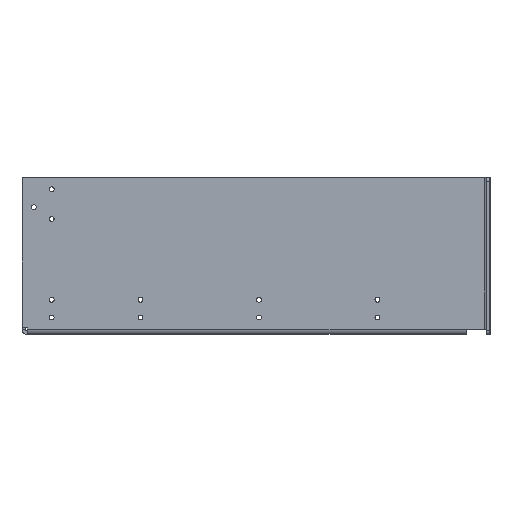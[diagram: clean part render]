
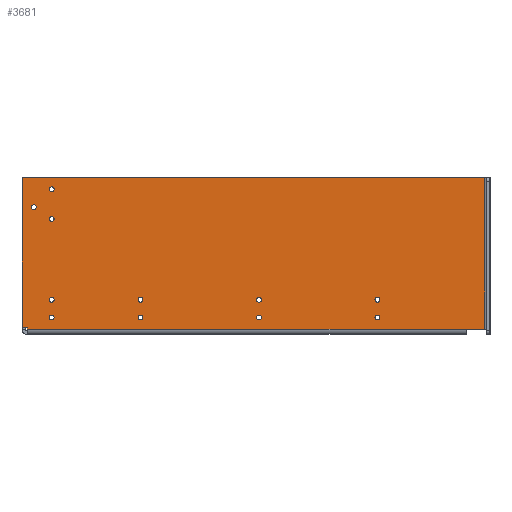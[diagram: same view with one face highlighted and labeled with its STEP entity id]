
A CAD part, left-side view. The second image highlights one B-rep face of the part: STEP entity #3681.
In plain terms, the highlighted planar face has unit normal (-1, 0, 0).
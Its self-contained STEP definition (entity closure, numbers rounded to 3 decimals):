
#186=FACE_BOUND('',#638,.T.);
#187=FACE_BOUND('',#639,.T.);
#188=FACE_BOUND('',#640,.T.);
#189=FACE_BOUND('',#641,.T.);
#190=FACE_BOUND('',#642,.T.);
#191=FACE_BOUND('',#643,.T.);
#192=FACE_BOUND('',#644,.T.);
#193=FACE_BOUND('',#645,.T.);
#194=FACE_BOUND('',#646,.T.);
#195=FACE_BOUND('',#647,.T.);
#196=FACE_BOUND('',#648,.T.);
#328=PLANE('',#3924);
#440=FACE_OUTER_BOUND('',#637,.T.);
#637=EDGE_LOOP('',(#2736,#2737,#2738,#2739,#2740,#2741,#2742));
#638=EDGE_LOOP('',(#2743));
#639=EDGE_LOOP('',(#2744));
#640=EDGE_LOOP('',(#2745));
#641=EDGE_LOOP('',(#2746));
#642=EDGE_LOOP('',(#2747));
#643=EDGE_LOOP('',(#2748));
#644=EDGE_LOOP('',(#2749));
#645=EDGE_LOOP('',(#2750));
#646=EDGE_LOOP('',(#2751));
#647=EDGE_LOOP('',(#2752));
#648=EDGE_LOOP('',(#2753));
#954=LINE('',#5441,#1273);
#956=LINE('',#5446,#1275);
#959=LINE('',#5453,#1278);
#962=LINE('',#5458,#1281);
#970=LINE('',#5478,#1289);
#971=LINE('',#5481,#1290);
#972=LINE('',#5482,#1291);
#1273=VECTOR('',#4400,10.);
#1275=VECTOR('',#4404,10.);
#1278=VECTOR('',#4409,10.);
#1281=VECTOR('',#4414,10.);
#1289=VECTOR('',#4434,10.);
#1290=VECTOR('',#4437,10.);
#1291=VECTOR('',#4438,10.);
#1546=CIRCLE('',#3848,2.067);
#1548=CIRCLE('',#3851,2.067);
#1550=CIRCLE('',#3854,2.067);
#1552=CIRCLE('',#3857,2.067);
#1554=CIRCLE('',#3860,2.067);
#1556=CIRCLE('',#3863,2.067);
#1558=CIRCLE('',#3866,2.067);
#1560=CIRCLE('',#3869,2.067);
#1562=CIRCLE('',#3872,2.067);
#1564=CIRCLE('',#3875,2.067);
#1566=CIRCLE('',#3878,2.067);
#1731=VERTEX_POINT('',#5272);
#1733=VERTEX_POINT('',#5278);
#1735=VERTEX_POINT('',#5284);
#1737=VERTEX_POINT('',#5290);
#1739=VERTEX_POINT('',#5296);
#1741=VERTEX_POINT('',#5302);
#1743=VERTEX_POINT('',#5308);
#1745=VERTEX_POINT('',#5314);
#1747=VERTEX_POINT('',#5320);
#1749=VERTEX_POINT('',#5326);
#1751=VERTEX_POINT('',#5332);
#1784=VERTEX_POINT('',#5430);
#1785=VERTEX_POINT('',#5434);
#1787=VERTEX_POINT('',#5445);
#1788=VERTEX_POINT('',#5449);
#1790=VERTEX_POINT('',#5452);
#1797=VERTEX_POINT('',#5476);
#1798=VERTEX_POINT('',#5480);
#2053=EDGE_CURVE('',#1731,#1731,#1546,.T.);
#2056=EDGE_CURVE('',#1733,#1733,#1548,.T.);
#2059=EDGE_CURVE('',#1735,#1735,#1550,.T.);
#2062=EDGE_CURVE('',#1737,#1737,#1552,.T.);
#2065=EDGE_CURVE('',#1739,#1739,#1554,.T.);
#2068=EDGE_CURVE('',#1741,#1741,#1556,.T.);
#2071=EDGE_CURVE('',#1743,#1743,#1558,.T.);
#2074=EDGE_CURVE('',#1745,#1745,#1560,.T.);
#2077=EDGE_CURVE('',#1747,#1747,#1562,.T.);
#2080=EDGE_CURVE('',#1749,#1749,#1564,.T.);
#2083=EDGE_CURVE('',#1751,#1751,#1566,.T.);
#2136=EDGE_CURVE('',#1784,#1785,#954,.T.);
#2138=EDGE_CURVE('',#1787,#1785,#956,.T.);
#2141=EDGE_CURVE('',#1790,#1788,#959,.T.);
#2144=EDGE_CURVE('',#1787,#1788,#962,.T.);
#2155=EDGE_CURVE('',#1790,#1797,#970,.T.);
#2156=EDGE_CURVE('',#1784,#1798,#971,.T.);
#2157=EDGE_CURVE('',#1798,#1797,#972,.T.);
#2736=ORIENTED_EDGE('',*,*,#2144,.F.);
#2737=ORIENTED_EDGE('',*,*,#2138,.T.);
#2738=ORIENTED_EDGE('',*,*,#2136,.F.);
#2739=ORIENTED_EDGE('',*,*,#2156,.T.);
#2740=ORIENTED_EDGE('',*,*,#2157,.T.);
#2741=ORIENTED_EDGE('',*,*,#2155,.F.);
#2742=ORIENTED_EDGE('',*,*,#2141,.T.);
#2743=ORIENTED_EDGE('',*,*,#2053,.T.);
#2744=ORIENTED_EDGE('',*,*,#2056,.T.);
#2745=ORIENTED_EDGE('',*,*,#2059,.T.);
#2746=ORIENTED_EDGE('',*,*,#2062,.T.);
#2747=ORIENTED_EDGE('',*,*,#2065,.T.);
#2748=ORIENTED_EDGE('',*,*,#2068,.T.);
#2749=ORIENTED_EDGE('',*,*,#2071,.T.);
#2750=ORIENTED_EDGE('',*,*,#2074,.T.);
#2751=ORIENTED_EDGE('',*,*,#2077,.T.);
#2752=ORIENTED_EDGE('',*,*,#2080,.T.);
#2753=ORIENTED_EDGE('',*,*,#2083,.T.);
#3681=ADVANCED_FACE('',(#440,#186,#187,#188,#189,#190,#191,#192,#193,#194,
#195,#196),#328,.T.);
#3848=AXIS2_PLACEMENT_3D('',#5274,#4220,#4221);
#3851=AXIS2_PLACEMENT_3D('',#5280,#4227,#4228);
#3854=AXIS2_PLACEMENT_3D('',#5286,#4234,#4235);
#3857=AXIS2_PLACEMENT_3D('',#5292,#4241,#4242);
#3860=AXIS2_PLACEMENT_3D('',#5298,#4248,#4249);
#3863=AXIS2_PLACEMENT_3D('',#5304,#4255,#4256);
#3866=AXIS2_PLACEMENT_3D('',#5310,#4262,#4263);
#3869=AXIS2_PLACEMENT_3D('',#5316,#4269,#4270);
#3872=AXIS2_PLACEMENT_3D('',#5322,#4276,#4277);
#3875=AXIS2_PLACEMENT_3D('',#5328,#4283,#4284);
#3878=AXIS2_PLACEMENT_3D('',#5334,#4290,#4291);
#3924=AXIS2_PLACEMENT_3D('',#5479,#4435,#4436);
#4220=DIRECTION('center_axis',(1.,0.,0.));
#4221=DIRECTION('ref_axis',(0.,0.,
1.));
#4227=DIRECTION('center_axis',(1.,0.,0.));
#4228=DIRECTION('ref_axis',(0.,0.,
1.));
#4234=DIRECTION('center_axis',(1.,0.,0.));
#4235=DIRECTION('ref_axis',(0.,0.,
1.));
#4241=DIRECTION('center_axis',(1.,0.,0.));
#4242=DIRECTION('ref_axis',(0.,0.,
1.));
#4248=DIRECTION('center_axis',(1.,0.,0.));
#4249=DIRECTION('ref_axis',(0.,0.,
1.));
#4255=DIRECTION('center_axis',(1.,0.,0.));
#4256=DIRECTION('ref_axis',(0.,0.,
1.));
#4262=DIRECTION('center_axis',(1.,0.,0.));
#4263=DIRECTION('ref_axis',(0.,0.,
1.));
#4269=DIRECTION('center_axis',(1.,0.,0.));
#4270=DIRECTION('ref_axis',(0.,0.,
1.));
#4276=DIRECTION('center_axis',(1.,0.,0.));
#4277=DIRECTION('ref_axis',(0.,0.,
1.));
#4283=DIRECTION('center_axis',(1.,0.,0.));
#4284=DIRECTION('ref_axis',(0.,0.,
1.));
#4290=DIRECTION('center_axis',(1.,0.,0.));
#4291=DIRECTION('ref_axis',(0.,0.,
1.));
#4400=DIRECTION('',(0.,0.,-1.));
#4404=DIRECTION('',(0.,-1.,0.));
#4409=DIRECTION('',(0.,0.,-1.));
#4414=DIRECTION('',(0.,1.,0.));
#4434=DIRECTION('',(0.,1.,0.));
#4435=DIRECTION('center_axis',(-1.,0.,0.));
#4436=DIRECTION('ref_axis',(0.,0.,
1.));
#4437=DIRECTION('',(0.,1.,0.));
#4438=DIRECTION('',(0.,0.,-1.));
#5272=CARTESIAN_POINT('',(-223.,-112.5,9.233));
#5274=CARTESIAN_POINT('Origin',(-223.,-112.5,11.3));
#5278=CARTESIAN_POINT('',(-223.,-12.5,9.233));
#5280=CARTESIAN_POINT('Origin',(-223.,-12.5,11.3));
#5284=CARTESIAN_POINT('',(-223.,87.5,9.233));
#5286=CARTESIAN_POINT('Origin',(-223.,87.5,11.3));
#5290=CARTESIAN_POINT('',(-223.,162.5,9.233));
#5292=CARTESIAN_POINT('Origin',(-223.,162.5,11.3));
#5296=CARTESIAN_POINT('',(-223.,162.5,92.433));
#5298=CARTESIAN_POINT('Origin',(-223.,162.5,94.5));
#5302=CARTESIAN_POINT('',(-223.,162.5,117.433));
#5304=CARTESIAN_POINT('Origin',(-223.,162.5,119.5));
#5308=CARTESIAN_POINT('',(-223.,162.5,24.233));
#5310=CARTESIAN_POINT('Origin',(-223.,162.5,26.3));
#5314=CARTESIAN_POINT('',(-223.,87.5,24.233));
#5316=CARTESIAN_POINT('Origin',(-223.,87.5,26.3));
#5320=CARTESIAN_POINT('',(-223.,-12.5,24.233));
#5322=CARTESIAN_POINT('Origin',(-223.,-12.5,26.3));
#5326=CARTESIAN_POINT('',(-223.,-112.5,24.233));
#5328=CARTESIAN_POINT('Origin',(-223.,-112.5,26.3));
#5332=CARTESIAN_POINT('',(-223.,177.5,102.433));
#5334=CARTESIAN_POINT('Origin',(-223.,177.5,104.5));
#5430=CARTESIAN_POINT('',(-223.,-203.,129.5));
#5434=CARTESIAN_POINT('',(-223.,-203.,1.5));
#5441=CARTESIAN_POINT('',(-223.,-203.,129.5));
#5445=CARTESIAN_POINT('',(-223.,-187.5,1.5));
#5446=CARTESIAN_POINT('',(-223.,-187.5,1.5));
#5449=CARTESIAN_POINT('',(-223.,183.,1.5));
#5452=CARTESIAN_POINT('',(-223.,183.,3.));
#5453=CARTESIAN_POINT('',(-223.,183.,-2.93));
#5458=CARTESIAN_POINT('',(-223.,-0.01,1.5));
#5476=CARTESIAN_POINT('',(-223.,187.5,3.));
#5478=CARTESIAN_POINT('',(-223.,91.49,3.));
#5479=CARTESIAN_POINT('Origin',(-223.,-0.02,63.305));
#5480=CARTESIAN_POINT('',(-223.,187.5,129.5));
#5481=CARTESIAN_POINT('',(-223.,-187.5,129.5));
#5482=CARTESIAN_POINT('',(-223.,187.5,1.5));
